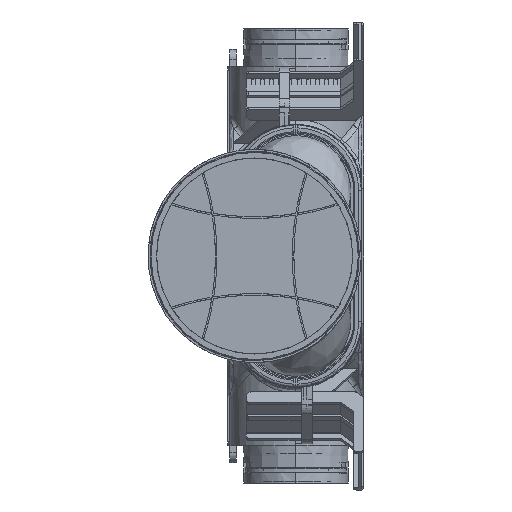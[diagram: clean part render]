
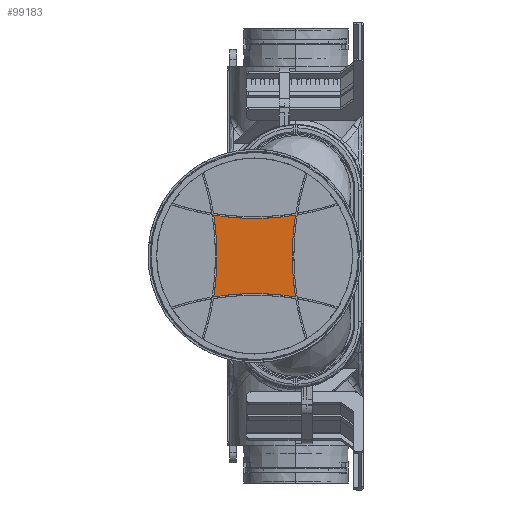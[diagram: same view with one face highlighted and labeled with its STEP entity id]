
A CAD part, left-side view. The second image highlights one B-rep face of the part: STEP entity #99183.
In plain terms, the highlighted planar face has unit normal (-1, 0, 0) as drawn and (0, 1, 0) by its records, which use the part's own axes.
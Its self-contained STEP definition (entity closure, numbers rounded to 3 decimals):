
#96304=CARTESIAN_POINT('',(31.188,148.6,-0.312));
#96314=CARTESIAN_POINT('',(230.,148.6,-31.5));
#96315=DIRECTION('',(0.,1.,0.));
#96316=DIRECTION('',(-1.,0.,0.));
#96317=AXIS2_PLACEMENT_3D('',#96314,#96315,#96316);
#96319=CARTESIAN_POINT('',(0.,148.6,198.5));
#96320=DIRECTION('',(0.,1.,0.));
#96321=DIRECTION('',(0.155,0.,-0.988));
#96322=AXIS2_PLACEMENT_3D('',#96319,#96320,#96321);
#96324=CARTESIAN_POINT('',(0.,148.6,198.5));
#96325=DIRECTION('',(0.,1.,0.));
#96326=DIRECTION('',(0.,0.,-1.));
#96327=AXIS2_PLACEMENT_3D('',#96324,#96325,#96326);
#96329=CARTESIAN_POINT('',(-230.,148.6,-31.5));
#96330=DIRECTION('',(0.,1.,0.));
#96331=DIRECTION('',(0.988,0.,0.155));
#96332=AXIS2_PLACEMENT_3D('',#96329,#96330,#96331);
#96334=CARTESIAN_POINT('',(-230.,148.6,-31.5));
#96335=DIRECTION('',(0.,1.,0.));
#96336=DIRECTION('',(1.,0.,0.));
#96337=AXIS2_PLACEMENT_3D('',#96334,#96335,#96336);
#96339=CARTESIAN_POINT('',(0.,148.6,-261.5));
#96340=DIRECTION('',(0.,1.,0.));
#96341=DIRECTION('',(-0.155,0.,0.988));
#96342=AXIS2_PLACEMENT_3D('',#96339,#96340,#96341);
#96344=CARTESIAN_POINT('',(0.,148.6,-261.5));
#96345=DIRECTION('',(0.,1.,0.));
#96346=DIRECTION('',(0.,0.,1.));
#96347=AXIS2_PLACEMENT_3D('',#96344,#96345,#96346);
#96349=CARTESIAN_POINT('',(230.,148.6,-31.5));
#96350=DIRECTION('',(0.,1.,0.));
#96351=DIRECTION('',(-0.988,0.,-0.155));
#96352=AXIS2_PLACEMENT_3D('',#96349,#96350,#96351);
#96354=CARTESIAN_POINT('',(-31.188,148.6,-0.312));
#96653=VERTEX_POINT('',#96304);
#96654=VERTEX_POINT('',#96354);
#96655=CARTESIAN_POINT('',(0.,148.6,-2.744));
#96656=VERTEX_POINT('',#96655);
#96657=CARTESIAN_POINT('',(31.188,148.6,-62.688));
#96658=CARTESIAN_POINT('',(28.756,148.6,-31.5));
#96659=VERTEX_POINT('',#96657);
#96660=VERTEX_POINT('',#96658);
#96661=CARTESIAN_POINT('',(-28.756,148.6,-31.5));
#96662=VERTEX_POINT('',#96661);
#96663=CARTESIAN_POINT('',(-31.188,148.6,-62.688));
#96664=VERTEX_POINT('',#96663);
#96665=CARTESIAN_POINT('',(0.,148.6,-60.256));
#96666=VERTEX_POINT('',#96665);
#99164=CARTESIAN_POINT('',(0.,148.6,-31.5));
#99165=DIRECTION('',(0.,-1.,0.));
#99166=DIRECTION('',(0.,0.,1.));
#99167=AXIS2_PLACEMENT_3D('',#99164,#99165,#99166);
#99168=PLANE('',#99167);
#99169=ORIENTED_EDGE('',*,*,#99159,.T.);
#99170=ORIENTED_EDGE('',*,*,#99142,.T.);
#99171=ORIENTED_EDGE('',*,*,#99140,.T.);
#99173=ORIENTED_EDGE('',*,*,#99172,.T.);
#99175=ORIENTED_EDGE('',*,*,#99174,.T.);
#99177=ORIENTED_EDGE('',*,*,#99176,.T.);
#99179=ORIENTED_EDGE('',*,*,#99178,.T.);
#99180=ORIENTED_EDGE('',*,*,#99152,.T.);
#99181=EDGE_LOOP('',(#99169,#99170,#99171,#99173,#99175,#99177,#99179,#99180));
#99182=FACE_OUTER_BOUND('',#99181,.F.);
#99183=ADVANCED_FACE('',(#99182),#99168,.F.);
#96318=CIRCLE('',#96317,201.244);
#96323=CIRCLE('',#96322,201.244);
#96328=CIRCLE('',#96327,201.244);
#96333=CIRCLE('',#96332,201.244);
#96338=CIRCLE('',#96337,201.244);
#96343=CIRCLE('',#96342,201.244);
#96348=CIRCLE('',#96347,201.244);
#96353=CIRCLE('',#96352,201.244);
#99140=EDGE_CURVE('',#96656,#96654,#96328,.T.);
#99142=EDGE_CURVE('',#96653,#96656,#96323,.T.);
#99152=EDGE_CURVE('',#96659,#96660,#96353,.T.);
#99159=EDGE_CURVE('',#96660,#96653,#96318,.T.);
#99172=EDGE_CURVE('',#96654,#96662,#96333,.T.);
#99174=EDGE_CURVE('',#96662,#96664,#96338,.T.);
#99176=EDGE_CURVE('',#96664,#96666,#96343,.T.);
#99178=EDGE_CURVE('',#96666,#96659,#96348,.T.);
